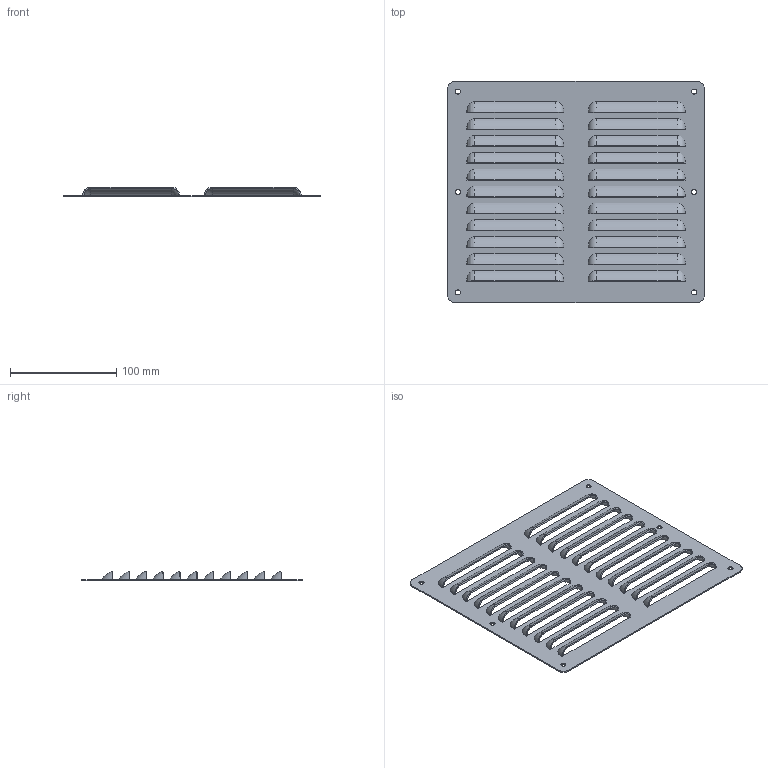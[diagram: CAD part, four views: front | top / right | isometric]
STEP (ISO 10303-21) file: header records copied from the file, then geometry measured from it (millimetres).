
FILE_DESCRIPTION((''),'2;1');
FILE_NAME('SCE-AVK86_ASM','2021-10-19T11:01:29',('mikek'),('SAGINAW CONTROL & ENGINEERING'),'CREO PARAMETRIC BY PTC INC, 2017260','CREO PARAMETRIC BY PTC INC, 2017260','');
FILE_SCHEMA(('AUTOMOTIVE_DESIGN { 1 0 10303 214 1 1 1 1 }'));
Length unit declared in the file: inch
Products named in the file (3): 110730; 102044; SCE-AVK86_ASM
Assembly tree (2 placements, depth 2):
  SCE-AVK86_ASM
    110730
    102044
Bounding box: 241.3 x 207.96 x 9.07 mm (x, y, z)
Volume: 68747.9 mm3; surface area: 119173.4 mm2
Topology: 1 solids, 1 shells, 330 faces, 808 edges, 480 vertices
Faces by surface type: bspline 132, torus 88, cylinder 60, plane 50
Entity records: 17737 total; most frequent: CARTESIAN_POINT 10053, ORIENTED_EDGE 1616, DIRECTION 1158, EDGE_CURVE 808, VERTEX_POINT 480, VECTOR 424, LINE 424, EDGE_LOOP 386
